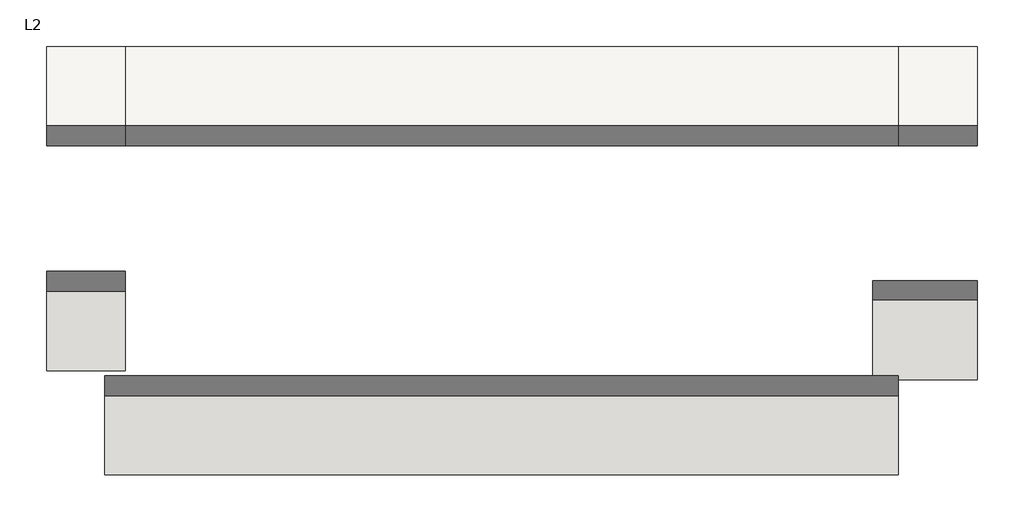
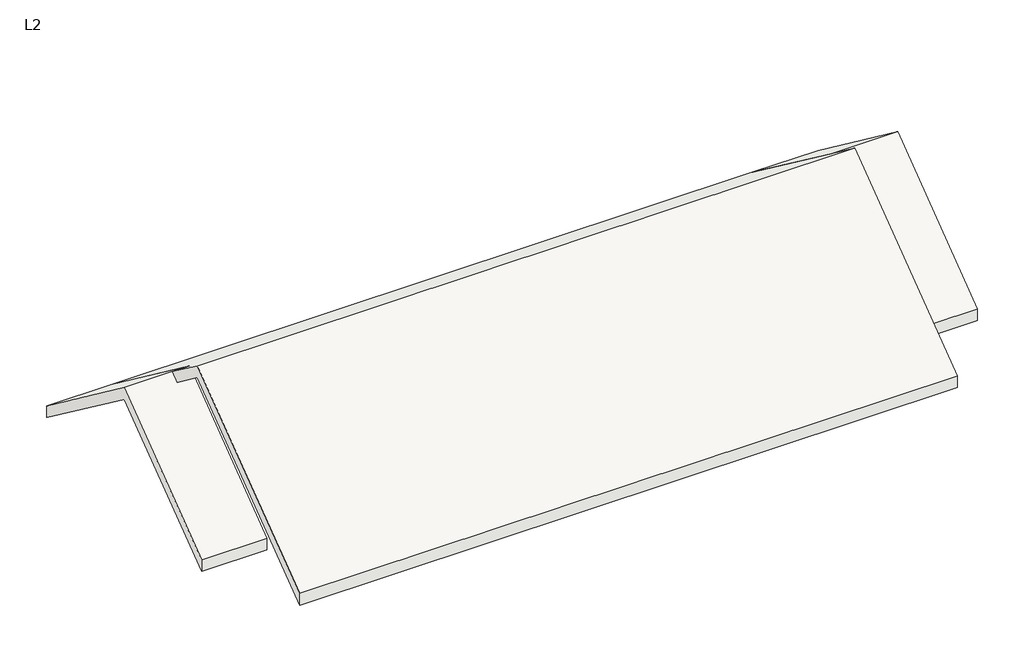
# One storey: 3 roofs.
"""IFC4 building model written with IfcOpenShell, lengths in millimetres."""

import ifcopenshell
import ifcopenshell.guid

model = None  # the IFC model being written
_history = None  # IfcOwnerHistory: only IFC2X3 demands one
_inside = {}  # id of a spatial element -> (the spatial element, [elements in it])
_under = {}  # id of a project, library or spatial element -> (it, [spatial elements below it])
_declared = {}  # id of a project -> (the project, [libraries it declares])
_typed = {}  # id of a type object -> (the type object, [elements of that type])
_made_of = {}  # id of a material, layer set ... -> (it, [elements and type objects made of it])


def new_model(schema):
    """Start an empty IFC model of exactly this schema.

    Asked for "IFC4X3", IfcOpenShell would pick the latest addendum, in which some entities
    have other attributes; the version numbers below select the first issue.
    IFC2X3 requires an IfcOwnerHistory on every rooted entity: one is made here for all.
    """
    global model, _history
    if schema == "IFC4X3":
        model = ifcopenshell.file(schema_version=(4, 3, 0, 0))
    else:
        model = ifcopenshell.file(schema=schema)
    _inside.clear()
    _under.clear()
    _declared.clear()
    _typed.clear()
    _made_of.clear()
    _history = None
    if model.schema == "IFC2X3":
        org = make("IfcOrganization", Name="unknown")
        user = make(
            "IfcPersonAndOrganization",
            ThePerson=make("IfcPerson", FamilyName="unknown"),
            TheOrganization=org,
        )
        app = make(
            "IfcApplication",
            ApplicationDeveloper=org,
            Version="unknown",
            ApplicationFullName="unknown",
            ApplicationIdentifier="unknown",
        )
        _history = make(
            "IfcOwnerHistory",
            OwningUser=user,
            OwningApplication=app,
            ChangeAction="ADDED",
            CreationDate=0,
        )
    return model


def make(cls, **values):
    """One entity of the class cls with the attributes given. An attribute that is None is left unset."""
    return model.create_entity(
        cls, **{name: value for name, value in values.items() if value is not None}
    )


def rooted(cls, **values):
    """An entity with a GlobalId (a new one), such as an element, a storey or a relation."""
    return make(cls, GlobalId=ifcopenshell.guid.new(), OwnerHistory=_history, **values)


def si_unit(unit_type, name, prefix=None):
    """IfcSIUnit, for example si_unit("LENGTHUNIT", "METRE", prefix="MILLI")."""
    return make("IfcSIUnit", UnitType=unit_type, Prefix=prefix, Name=name)


def assignment(units):
    """IfcUnitAssignment: the units of a project."""
    return None if units is None else make("IfcUnitAssignment", Units=units)


def point(xyz):
    """IfcCartesianPoint."""
    return None if xyz is None else make("IfcCartesianPoint", Coordinates=xyz)


def direction(xyz):
    """IfcDirection."""
    return None if xyz is None else make("IfcDirection", DirectionRatios=xyz)


def frame(location, z_axis=None, x_axis=None):
    """IfcAxis2Placement3D, a coordinate frame: its origin and axes. An axis left out is left unset."""
    return make(
        "IfcAxis2Placement3D",
        Location=point(location),
        Axis=direction(z_axis),
        RefDirection=direction(x_axis),
    )


def origin():
    """The frame at (0, 0, 0) with its axes left unset."""
    return frame((0.0, 0.0, 0.0))


def place(relative_to, where):
    """IfcLocalPlacement: puts the frame where relative to a parent placement (None: the world)."""
    return make(
        "IfcLocalPlacement", PlacementRelTo=relative_to, RelativePlacement=where
    )


def context(
    kind, dimensions, precision=None, world=None, true_north=None, identifier=None
):
    """IfcGeometricRepresentationContext, for example the 3D "Model" context."""
    return make(
        "IfcGeometricRepresentationContext",
        ContextIdentifier=identifier,
        ContextType=kind,
        CoordinateSpaceDimension=dimensions,
        Precision=precision,
        WorldCoordinateSystem=world,
        TrueNorth=true_north,
    )


def project(units=None, contexts=None):
    """IfcProject with its units and contexts."""
    return rooted(
        "IfcProject",
        Name="project",
        RepresentationContexts=contexts,
        UnitsInContext=assignment(units),
    )


def spatial(cls, under=None, at=None, **own):
    """A site, building, storey or space (cls), placed at a placement, below another one or the project."""
    s = rooted(cls, ObjectPlacement=at, **own)
    if under is not None:
        _under.setdefault(under.id(), (under, []))[1].append(s)
    return s


def faces_of(points, faces, orient=None, outer=None):
    """IfcFace entities. A face is a list of loops; a loop is a list of indices into points, from 0.

    orient and outer hold one flag for each loop. By default every Orientation is true, the
    first loop of a face is its IfcFaceOuterBound and the others are IfcFaceBound.
    """
    made = []
    for i, loops in enumerate(faces):
        bounds = []
        for j, loop in enumerate(loops):
            is_outer = j == 0 if outer is None else outer[i][j]
            bounds.append(
                make(
                    "IfcFaceOuterBound" if is_outer else "IfcFaceBound",
                    Bound=make("IfcPolyLoop", Polygon=[points[k] for k in loop]),
                    Orientation=True if orient is None else orient[i][j],
                )
            )
        made.append(make("IfcFace", Bounds=bounds))
    return made


def faceted_brep(points, faces, orient=None, outer=None, voids=None):
    """IfcFacetedBrep: a solid bounded by flat faces; with voids (closed shells), ...WithVoids."""
    shared = [point(p) for p in points]
    hull = make("IfcClosedShell", CfsFaces=faces_of(shared, faces, orient, outer))
    if voids is None:
        return make("IfcFacetedBrep", Outer=hull)
    return make(
        "IfcFacetedBrepWithVoids",
        Outer=hull,
        Voids=[
            make(cls, CfsFaces=faces_of(shared, fs, o, b)) for cls, fs, o, b in voids
        ],
    )


def shape(context_of_items, identifier, shape_type, items):
    """IfcShapeRepresentation: the items that make up one representation, for example the "Body"."""
    return make(
        "IfcShapeRepresentation",
        ContextOfItems=context_of_items,
        RepresentationIdentifier=identifier,
        RepresentationType=shape_type,
        Items=items,
    )


def made_of(thing, what):
    """Note that an element or type object is made of a material, layer set ...; save() writes the relation."""
    if what is not None:
        _made_of.setdefault(what.id(), (what, []))[1].append(thing)
    return thing


def element(
    cls,
    number,
    at=None,
    inside=None,
    cuts=None,
    type_object=None,
    material=None,
    context=None,
    identifier="Body",
    shape_type=None,
    held_by="IfcProductDefinitionShape",
    body=None,
    shapes=None,
    **own,
):
    """One element of the class cls, such as IfcWall. Its Tag is "e" and its number.

    at: its placement. inside: the storey or other place that contains it. cuts: it is an
    opening in that element (IfcRelVoidsElement). A single representation is given by context,
    identifier, shape_type and body (its items); several are given by shapes. held_by: the class
    of the entity that holds the representations. save() writes the other relations.
    """
    e = rooted(cls, Tag="e%d" % number, ObjectPlacement=at, **own)
    if body is not None:
        shapes = [shape(context, identifier, shape_type, body)]
    if shapes is not None:
        e.Representation = make(held_by, Representations=shapes)
    if inside is not None:
        _inside.setdefault(inside.id(), (inside, []))[1].append(e)
    if cuts is not None:
        rooted(
            "IfcRelVoidsElement", RelatingBuildingElement=cuts, RelatedOpeningElement=e
        )
    if type_object is not None:
        _typed.setdefault(type_object.id(), (type_object, []))[1].append(e)
    return made_of(e, material)


def aggregate(whole, parts):
    """IfcRelAggregates: a whole, such as a stair, and the parts it consists of."""
    return rooted("IfcRelAggregates", RelatingObject=whole, RelatedObjects=parts)


def save(model, path):
    """Write the relations noted so far, then the file.

    IfcRelAggregates (storeys below a building ...), IfcRelContainedInSpatialStructure (elements
    in a storey), IfcRelDefinesByType, IfcRelAssociatesMaterial and IfcRelDeclares: one each for
    every whole, place, type object, material and project.
    """
    for whole, parts in _under.values():
        aggregate(whole, parts)
    for where, things in _inside.values():
        rooted(
            "IfcRelContainedInSpatialStructure",
            RelatedElements=things,
            RelatingStructure=where,
        )
    for kind, things in _typed.values():
        rooted("IfcRelDefinesByType", RelatedObjects=things, RelatingType=kind)
    for what, things in _made_of.values():
        rooted("IfcRelAssociatesMaterial", RelatedObjects=things, RelatingMaterial=what)
    for by, libraries in _declared.values():
        rooted("IfcRelDeclares", RelatingContext=by, RelatedDefinitions=libraries)
    model.write(path)


model = new_model("IFC4")

# Units and contexts
model_context = context("Model", 3, world=origin())
ifc_project = project(units=[si_unit("LENGTHUNIT", "METRE", prefix="MILLI")], contexts=[model_context])

# Site, building, storey
site = spatial("IfcSite", under=ifc_project)
building = spatial("IfcBuilding", under=site)
storey = spatial("IfcBuildingStorey", under=building, Name="L2", Elevation=3657.6)

# Roofs
placement = place(None, origin())
element("IfcRoof", 1, ObjectType="Generic - 9\"", at=placement, inside=storey, context=model_context, shape_type="Brep", body=[
    faceted_brep([(9172.9198067, 4128.076438, 3429.0), (9172.9198067, 927.676438, 5829.3), (9172.9198067, 737.176438, 5972.175), (9172.9198067, 13.276438, 6515.1), (-6067.0801933, 13.276438, 6515.1), (-6067.0801933, 826.076438, 5905.5), (-5670.2051933, 826.076438, 5905.5), (-5670.2051933, 1016.576438, 5762.625), (-5670.2051933, 4128.076438, 3429.0), (9172.9198067, -4101.523562, 3429.0), (-6067.0801933, -4101.523562, 3429.0), (-6067.0801933, 13.276438, 6800.85), (9172.9198067, 13.276438, 6800.85), (9172.9198067, 927.676438, 6115.05), (9172.9198067, 4128.076438, 3714.75), (-5670.2051933, 4128.076438, 3714.75), (-5670.2051933, 1016.576438, 6048.375), (-6067.0801933, 1016.576438, 6048.375), (-6067.0801933, -4101.523562, 3714.75), (9172.9198067, -4101.523562, 3714.75)], [[[0, 1, 2, 3, 4, 5, 6, 7, 8]], [[4, 3, 9, 10]], [[11, 12, 13, 14, 15, 16, 17]], [[12, 11, 18, 19]], [[19, 18, 10, 9]], [[14, 0, 8, 15]], [[4, 10, 18, 11, 17, 5]], [[3, 2, 1, 0, 14, 13, 12, 19, 9]], [[16, 6, 5, 17]], [[6, 16, 15, 8, 7]]]),
])
element("IfcRoof", 2, ObjectType="Generic - 9\"", at=placement, inside=storey, context=model_context, shape_type="Brep", body=[
    faceted_brep([(10696.9198067, 4128.076438, 3429.0), (10696.9198067, 927.676438, 5829.3), (9172.9198067, 927.676438, 5829.3), (9172.9198067, 4128.076438, 3429.0), (10696.9198067, -2272.723562, 3429.0), (8683.9698067, -2272.723562, 3429.0), (8683.9698067, 927.676438, 5829.3), (10696.9198067, 927.676438, 6115.05), (10696.9198067, 4128.076438, 3714.75), (9172.9198067, 4128.076438, 3714.75), (9172.9198067, 927.676438, 6115.05), (10696.9198067, -2272.723562, 3714.75), (9172.9198067, 737.176438, 5972.175), (8683.9698067, 737.176438, 5972.175), (8683.9698067, -2272.723562, 3714.75)], [[[0, 1, 2, 3]], [[1, 4, 5, 6, 2]], [[7, 8, 9, 10]], [[11, 7, 10, 12, 13, 14]], [[8, 0, 3, 9]], [[11, 14, 5, 4]], [[1, 0, 8, 7, 11, 4]], [[6, 5, 14, 13]], [[12, 2, 6, 13]], [[2, 12, 10, 9, 3]]]),
])
element("IfcRoof", 3, ObjectType="Generic - 9\"", at=placement, inside=storey, context=model_context, shape_type="Brep", body=[
    faceted_brep([(-7184.6801933, 1016.576438, 5762.625), (-7184.6801933, 4128.076438, 3429.0), (-5670.2051933, 4128.076438, 3429.0), (-5670.2051933, 1016.576438, 5762.625), (-5670.2051933, -2094.923562, 3429.0), (-7184.6801933, -2094.923562, 3429.0), (-7184.6801933, 4128.076438, 3714.75), (-7184.6801933, 1016.576438, 6048.375), (-6067.0801933, 1016.576438, 6048.375), (-5670.2051933, 1016.576438, 6048.375), (-5670.2051933, 4128.076438, 3714.75), (-7184.6801933, -2094.923562, 3714.75), (-5670.2051933, -2094.923562, 3714.75), (-5670.2051933, 826.076438, 5905.5)], [[[0, 1, 2, 3]], [[4, 5, 0, 3]], [[6, 7, 8, 9, 10]], [[11, 12, 13, 9, 8, 7]], [[4, 12, 11, 5]], [[1, 6, 10, 2]], [[11, 7, 6, 1, 0, 5]], [[10, 9, 13, 12, 4, 3, 2]]]),
])

save(model, "model.ifc")
